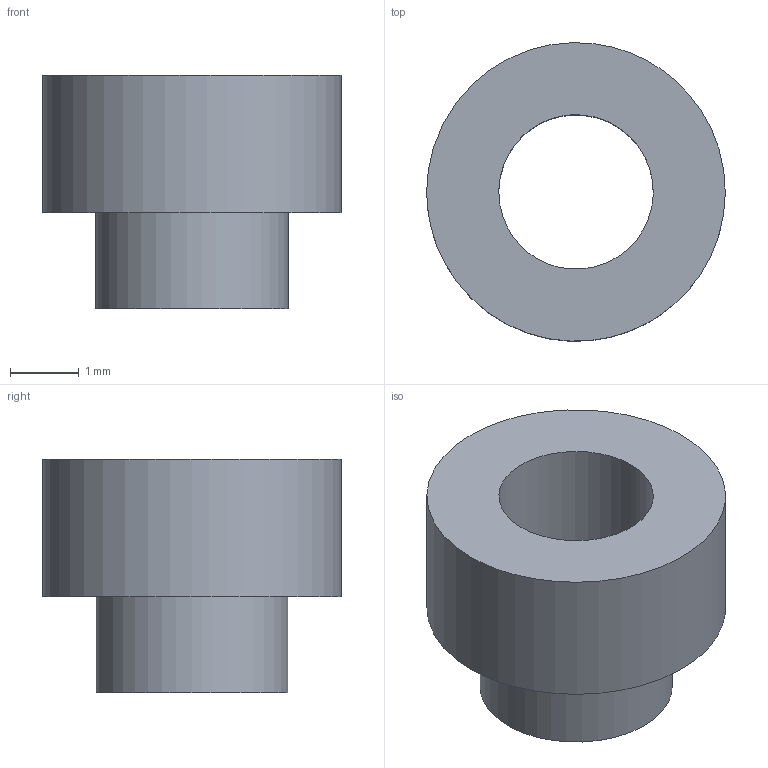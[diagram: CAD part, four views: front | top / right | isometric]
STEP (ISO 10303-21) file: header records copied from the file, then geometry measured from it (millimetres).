
FILE_DESCRIPTION(('FreeCAD Model'),'2;1');
FILE_NAME('Open CASCADE Shape Model','2026-03-20T17:23:03',('Author'),( ''),'Open CASCADE STEP processor 7.8','FreeCAD','Unknown');
FILE_SCHEMA(('AP242_MANAGED_MODEL_BASED_3D_ENGINEERING_MIM_LF. {1 0 10303 442 1 1 4 }'));
Length unit declared in the file: millimetre
Products named in the file (1): 1_transformed
Bounding box: 4.35 x 4.35 x 3.4 mm (x, y, z)
Volume: 25.1 mm3; surface area: 85.6 mm2
Topology: 1 solids, 1 shells, 6 faces, 9 edges, 6 vertices
Faces by surface type: bspline 6
Entity records: 201 total; most frequent: CARTESIAN_POINT 109, ORIENTED_EDGE 18, FACE_BOUND 9, EDGE_LOOP 9, EDGE_CURVE 9, ADVANCED_FACE 6, VERTEX_POINT 6, B_SPLINE_SURFACE_WITH_KNOTS 3
